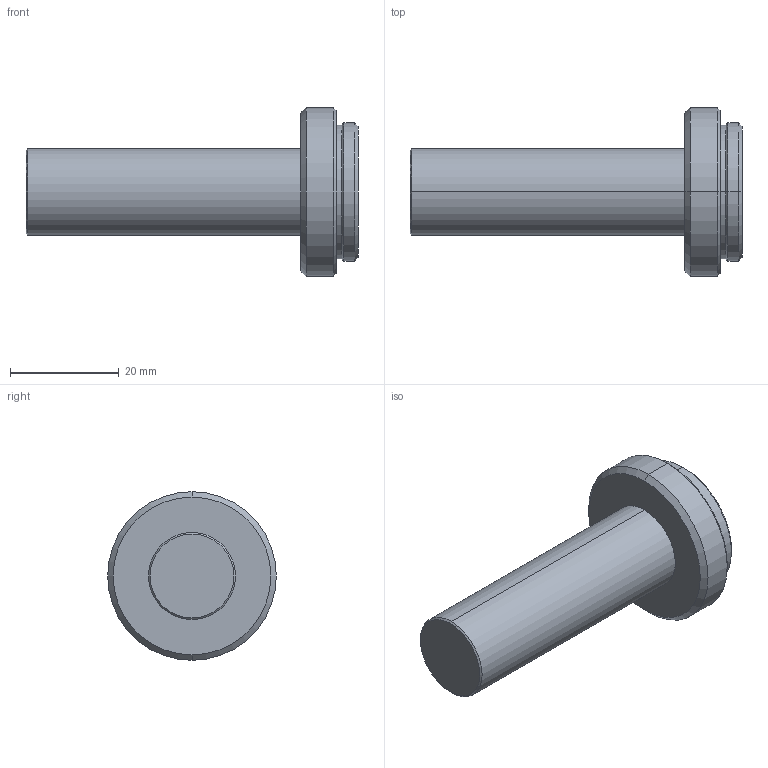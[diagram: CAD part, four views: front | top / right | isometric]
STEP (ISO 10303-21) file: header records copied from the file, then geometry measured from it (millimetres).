
FILE_DESCRIPTION (( 'STEP AP203' ), '1' );
FILE_NAME ('VS-TC1.5-40.STEP', '2015-12-21T02:01:42', ( '' ), ( '' ), 'SwSTEP 2.0', 'SolidWorks 2015', '' );
FILE_SCHEMA (( 'CONFIG_CONTROL_DESIGN' ));
Length unit declared in the file: millimetre
Products named in the file (1): VS-TC1.5-40
Bounding box: 61 x 31 x 31 mm (x, y, z)
Volume: 16972.7 mm3; surface area: 4916.9 mm2
Topology: 1 solids, 1 shells, 22 faces, 42 edges, 24 vertices
Faces by surface type: cone 10, cylinder 8, plane 4
Entity records: 631 total; most frequent: DIRECTION 112, CARTESIAN_POINT 89, ORIENTED_EDGE 84, AXIS2_PLACEMENT_3D 47, EDGE_CURVE 42, VERTEX_POINT 24, CIRCLE 24, EDGE_LOOP 24
